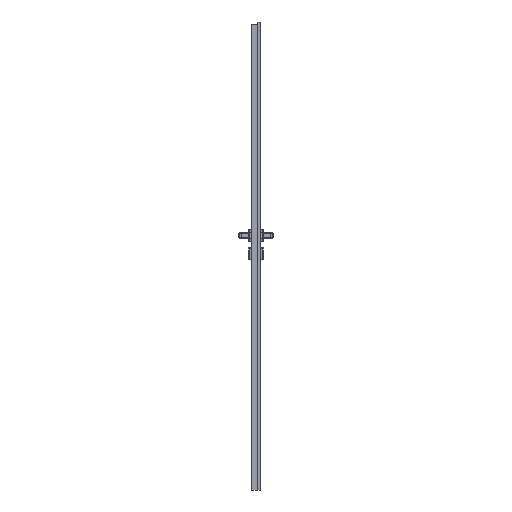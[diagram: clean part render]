
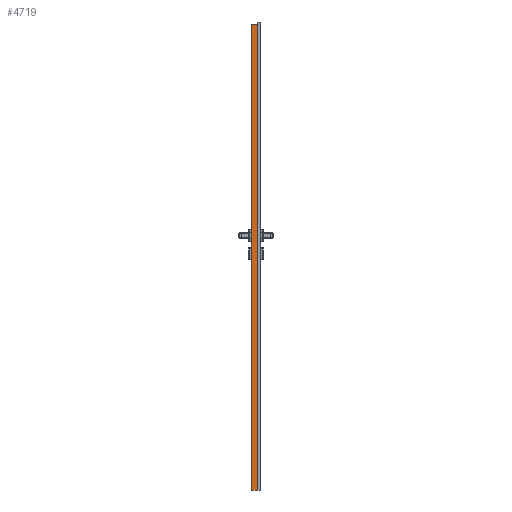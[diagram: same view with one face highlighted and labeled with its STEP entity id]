
A CAD part, left-side view. The second image highlights one B-rep face of the part: STEP entity #4719.
In plain terms, the highlighted planar face has unit normal (-1, 0, 0).
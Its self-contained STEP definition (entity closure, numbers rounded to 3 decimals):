
#2943=FACE_OUTER_BOUND('',#8853,.T.);
#4719=ADVANCED_FACE('',(#2943),#5913,.F.);
#5913=PLANE('',#33468);
#7046=CIRCLE('',#33467,1.48);
#8853=EDGE_LOOP('',(#16096,#16097,#16098,#16099,#16100));
#16096=ORIENTED_EDGE('',*,*,#24680,.F.);
#16097=ORIENTED_EDGE('',*,*,#24682,.T.);
#16098=ORIENTED_EDGE('',*,*,#24683,.T.);
#16099=ORIENTED_EDGE('',*,*,#24684,.F.);
#16100=ORIENTED_EDGE('',*,*,#24667,.T.);
#20632=VERTEX_POINT('',#55101);
#20633=VERTEX_POINT('',#55103);
#20639=VERTEX_POINT('',#55149);
#20640=VERTEX_POINT('',#55157);
#20641=VERTEX_POINT('',#55159);
#24667=EDGE_CURVE('',#20633,#20632,#27961,.T.);
#24680=EDGE_CURVE('',#20639,#20632,#27965,.T.);
#24682=EDGE_CURVE('',#20639,#20640,#7046,.T.);
#24683=EDGE_CURVE('',#20640,#20641,#27966,.T.);
#24684=EDGE_CURVE('',#20633,#20641,#27967,.T.);
#27961=LINE('',#55102,#30751);
#27965=LINE('',#55150,#30755);
#27966=LINE('',#55158,#30756);
#27967=LINE('',#55160,#30757);
#30751=VECTOR('',#40680,1.);
#30755=VECTOR('',#40706,1.);
#30756=VECTOR('',#40711,1.);
#30757=VECTOR('',#40712,1.);
#33467=AXIS2_PLACEMENT_3D('',#55156,#40709,#40710);
#33468=AXIS2_PLACEMENT_3D('',#55161,#40713,#40714);
#40680=DIRECTION('',(0.,-1.,0.));
#40706=DIRECTION('',(0.,0.,-1.));
#40709=DIRECTION('',(1.,0.,0.));
#40710=DIRECTION('',(0.,0.,1.));
#40711=DIRECTION('',(0.,1.,0.));
#40712=DIRECTION('',(0.,0.,1.));
#40713=DIRECTION('',(1.,0.,0.));
#40714=DIRECTION('',(0.,0.,-1.));
#55101=CARTESIAN_POINT('',(-309.,-24.65,0.));
#55102=CARTESIAN_POINT('',(-309.,-24.65,0.));
#55103=CARTESIAN_POINT('',(-309.,-1.65,0.));
#55149=CARTESIAN_POINT('',(-309.,-24.648,2017.074));
#55150=CARTESIAN_POINT('',(-309.,-24.65,0.));
#55156=CARTESIAN_POINT('',(-309.,-24.2,2018.5));
#55157=CARTESIAN_POINT('',(-309.,-24.2,2017.02));
#55158=CARTESIAN_POINT('',(-309.,0.,2017.02));
#55159=CARTESIAN_POINT('',(-309.,-1.65,2017.02));
#55160=CARTESIAN_POINT('',(-309.,-1.65,0.));
#55161=CARTESIAN_POINT('',(-309.,-24.65,0.));
